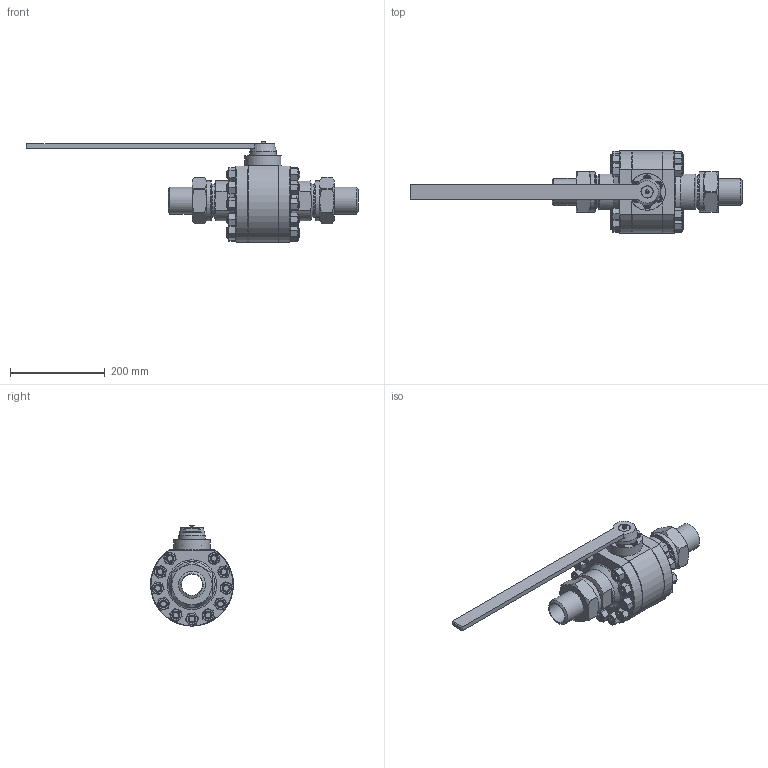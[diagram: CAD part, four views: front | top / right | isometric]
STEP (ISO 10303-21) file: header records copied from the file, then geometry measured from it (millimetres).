
FILE_DESCRIPTION(('STEP AP203'), '1');
FILE_NAME('ZARD 050.200.30.P.stp', '2013-12-06T07:34:06', ('Øèøêî'), ('ÎÎÎ ÈÊ Ýíåðïðåä-ßðäîñ'), 'ASCON STEP Converter 1.3', 'Kompas 3D', '');
FILE_SCHEMA(('CONFIG_CONTROL_DESIGN','SUPPORT_RESOURCE_SCHEMA'));
Length unit declared in the file: millimetre
Products named in the file (1): 157
Bounding box: 700 x 174.95 x 211.5 mm (x, y, z)
Volume: 3168013.5 mm3; surface area: 493087.6 mm2
Topology: 1 solids, 24 shells, 823 faces, 1810 edges, 1133 vertices
Faces by surface type: plane 440, cone 213, cylinder 164, torus 6
Full cylindrical faces by diameter (mm): 4.134 x1, 5 x1, 5.3 x1, 8 x8, 8.376 x6, 8.5 x1, 10 x6, 11 x6, 16 x50, 17 x6, 18 x11, 23.5 x1, 25 x3, 26 x1, 34.5 x1, 35 x1, 40 x1, 45 x4, 56 x1, 57 x2, 62 x2, 69 x2, 69.835 x2, 72 x2, 77 x1, 85 x4, 95 x3, 109 x2
Entity records: 36279 total; most frequent: CARTESIAN_POINT 18292, DIRECTION 3739, ORIENTED_EDGE 3606, EDGE_CURVE 1803, AXIS2_PLACEMENT_3D 1511, VERTEX_POINT 1133, EDGE_LOOP 962, ADVANCED_FACE 823
